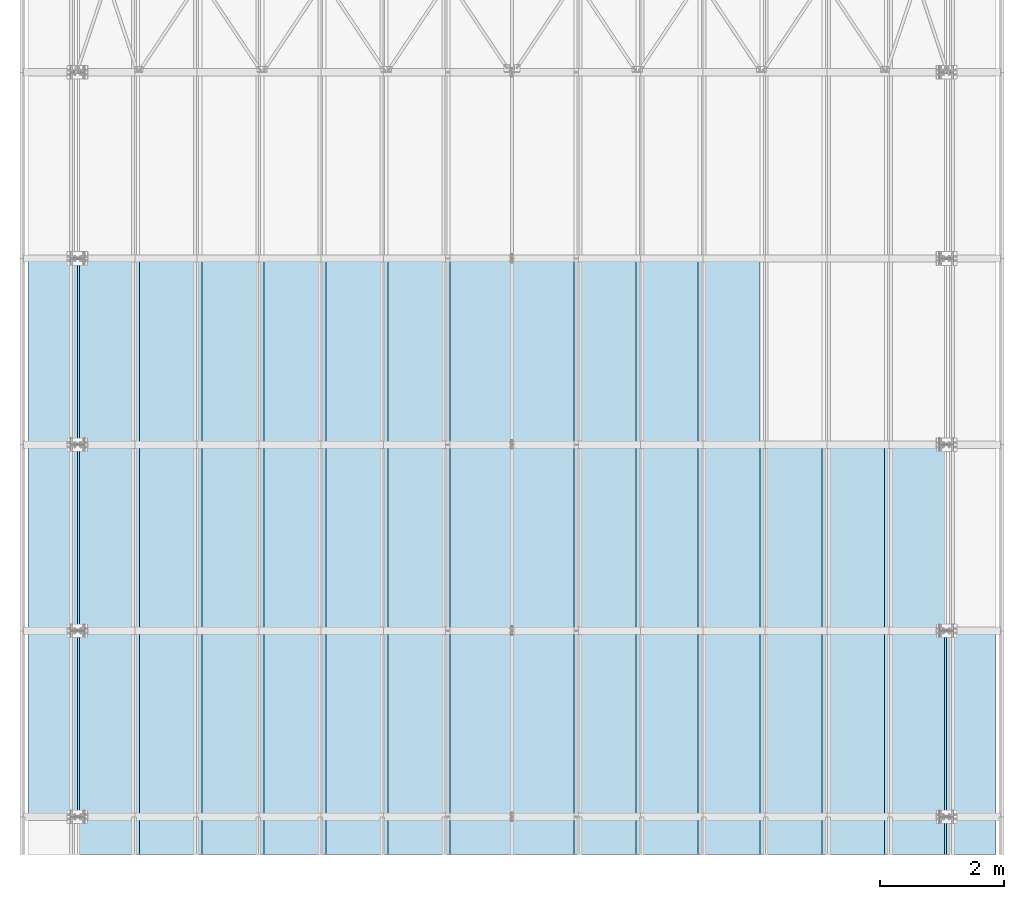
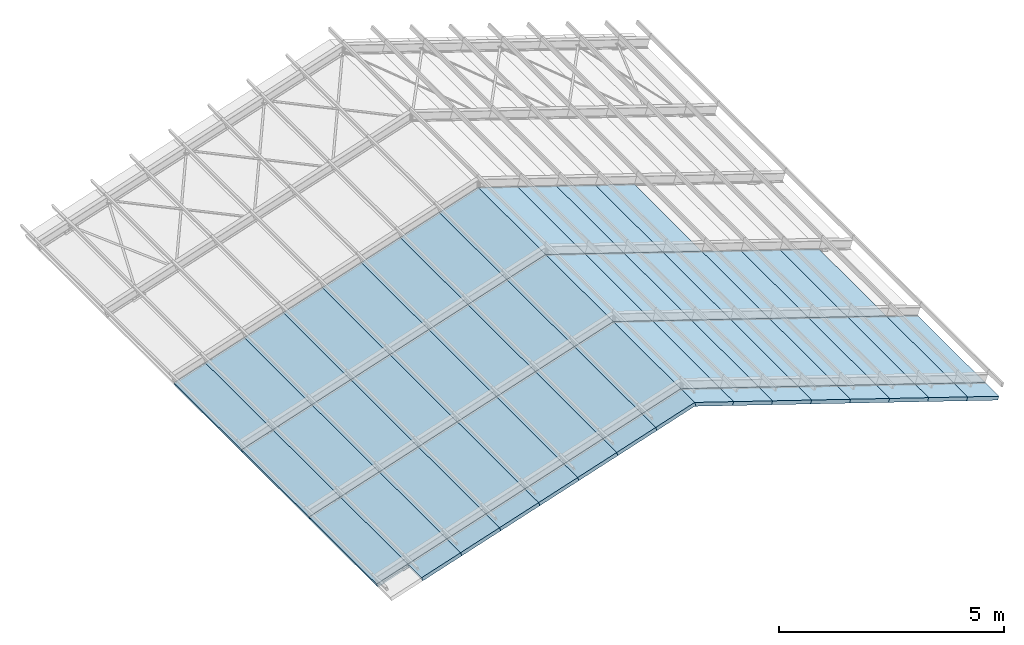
# One storey, part 3 of 53: 58 slabs.
"""IFC4 building model written with IfcOpenShell, lengths in metres."""

from ifc_helpers import new_model, si_unit, frame, origin_with_axes, place, context, project, spatial, polyline, outline, extrude, material, type_object, element, save


model = new_model("IFC4")

# Units and contexts
model_context = context("Model", 3, precision=1e-05, world=origin_with_axes())
ifc_project = project(units=[si_unit("LENGTHUNIT", "METRE"), si_unit("AREAUNIT", "SQUARE_METRE"), si_unit("VOLUMEUNIT", "CUBIC_METRE"), si_unit("MASSUNIT", "GRAM", prefix="KILO"), si_unit("TIMEUNIT", "SECOND"), si_unit("PLANEANGLEUNIT", "RADIAN"), si_unit("SOLIDANGLEUNIT", "STERADIAN"), si_unit("THERMODYNAMICTEMPERATUREUNIT", "DEGREE_CELSIUS")], contexts=[model_context])

# Site, building, storey
placement_1 = place(None, origin_with_axes())
site = spatial("IfcSite", under=ifc_project, at=placement_1, Name="Italia", CompositionType="ELEMENT")
building = spatial("IfcBuilding", under=site, at=placement_1, Name="Capannone", CompositionType="ELEMENT")
storey_placement = place(None, frame((0.0, 0.0, 5.550000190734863), z_axis=(0.0, 0.0, 1.0), x_axis=(1.0, 0.0, 0.0)))
storey = spatial("IfcBuildingStorey", under=building, at=storey_placement, Name="Storey 1", CompositionType="ELEMENT", Elevation=5.550000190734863)

# Slabs
ifc_material_1 = material(Name="Concrete", Category="Concrete")
slab_type_1 = type_object("IfcSlabType", Name="1 Copertura", PredefinedType="FLOOR", material=ifc_material_1)
placement_2 = place(placement_1, origin_with_axes())
slab_1_placement = place(placement_2, origin_with_axes())
element("IfcSlab", 1, at=slab_1_placement, inside=storey, type_object=slab_type_1, Name="100", context=model_context, shape_type="SweptSolid", body=[
    extrude(outline(polyline([(0.0, 0.0), (0.61, 9.53674e-07), (0.609998, 1.0526), (-1.90735e-06, 1.0526), (0.0, 0.0)])), frame((2.0, -0.61, 6.20714), z_axis=(0.312152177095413, 5.96046959e-07, -0.950032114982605), x_axis=(-1.909475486e-06, 1.0, 0.0)), (0.0, 0.0, 1.0), 0.0999999),
])
ifc_material_2 = material(Name="Concrete", Category="Concrete")
slab_type_2 = type_object("IfcSlabType", Name="1 Copertura", PredefinedType="FLOOR", material=ifc_material_2)
slab_2_placement = place(placement_2, origin_with_axes())
element("IfcSlab", 2, at=slab_2_placement, inside=storey, type_object=slab_type_2, Name="101", context=model_context, shape_type="SweptSolid", body=[
    extrude(outline(polyline([(0.0, 0.0), (0.61, 0.0), (0.61, 1.0526), (0.0, 1.0526), (0.0, 0.0)])), frame((3.0, -0.61, 6.53571), z_axis=(0.312154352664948, 0.0, -0.950031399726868), x_axis=(0.0, 1.0, 0.0)), (0.0, 0.0, 1.0), 0.1),
])
ifc_material_3 = material(Name="Concrete", Category="Concrete")
slab_type_3 = type_object("IfcSlabType", Name="1 Copertura", PredefinedType="FLOOR", material=ifc_material_3)
slab_3_placement = place(placement_2, origin_with_axes())
element("IfcSlab", 3, at=slab_3_placement, inside=storey, type_object=slab_type_3, Name="102", context=model_context, shape_type="SweptSolid", body=[
    extrude(outline(polyline([(0.0, 0.0), (0.61, 0.0), (0.61, 1.0526), (0.0, 1.0526), (0.0, 0.0)])), frame((4.0, -0.61, 6.86429), z_axis=(0.312152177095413, 0.0, -0.950032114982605), x_axis=(0.0, 1.0, 0.0)), (0.0, 0.0, 1.0), 0.0999999),
])
ifc_material_4 = material(Name="Concrete", Category="Concrete")
slab_type_4 = type_object("IfcSlabType", Name="1 Copertura", PredefinedType="FLOOR", material=ifc_material_4)
slab_4_placement = place(placement_2, origin_with_axes())
element("IfcSlab", 4, at=slab_4_placement, inside=storey, type_object=slab_type_4, Name="103", context=model_context, shape_type="SweptSolid", body=[
    extrude(outline(polyline([(0.0, 0.0), (0.61, 0.0), (0.61, 1.0526), (0.0, 1.0526), (0.0, 0.0)])), frame((5.0, -0.61, 7.19286), z_axis=(0.312152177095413, 0.0, -0.950032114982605), x_axis=(0.0, 1.0, 0.0)), (0.0, 0.0, 1.0), 0.0999999),
])
ifc_material_5 = material(Name="Concrete", Category="Concrete")
slab_type_5 = type_object("IfcSlabType", Name="1 Copertura", PredefinedType="FLOOR", material=ifc_material_5)
slab_5_placement = place(placement_2, origin_with_axes())
element("IfcSlab", 5, at=slab_5_placement, inside=storey, type_object=slab_type_5, Name="104", context=model_context, shape_type="SweptSolid", body=[
    extrude(outline(polyline([(0.0, 0.0), (-3.0, 0.0), (-3.0, -1.0526), (0.0, -1.0526), (0.0, 0.0)])), frame((13.0, 0.0, 5.87857), z_axis=(-0.312156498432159, 0.0, -0.950030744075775), x_axis=(0.0, -1.0, 0.0)), (0.0, 0.0, 1.0), 0.1),
])
ifc_material_6 = material(Name="Concrete", Category="Concrete")
slab_type_6 = type_object("IfcSlabType", Name="1 Copertura", PredefinedType="FLOOR", material=ifc_material_6)
slab_6_placement = place(placement_2, origin_with_axes())
element("IfcSlab", 6, at=slab_6_placement, inside=storey, type_object=slab_type_6, Name="105", context=model_context, shape_type="SweptSolid", body=[
    extrude(outline(polyline([(0.0, 0.0), (-0.61, 0.0), (-0.61, 1.0526), (0.0, 1.0526), (0.0, 0.0)])), frame((12.0, -0.61, 6.20714), z_axis=(-0.312156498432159, 0.0, -0.950030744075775), x_axis=(0.0, -1.0, 0.0)), (0.0, 0.0, 1.0), 0.1),
])
ifc_material_7 = material(Name="Concrete", Category="Concrete")
slab_type_7 = type_object("IfcSlabType", Name="1 Copertura", PredefinedType="FLOOR", material=ifc_material_7)
slab_7_placement = place(placement_2, origin_with_axes())
element("IfcSlab", 7, at=slab_7_placement, inside=storey, type_object=slab_type_7, Name="106", context=model_context, shape_type="SweptSolid", body=[
    extrude(outline(polyline([(0.0, 0.0), (-0.61, 0.0), (-0.61, 1.0526), (0.0, 1.0526), (0.0, 0.0)])), frame((13.0, -0.61, 5.87857), z_axis=(-0.312156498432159, 0.0, -0.950030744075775), x_axis=(0.0, -1.0, 0.0)), (0.0, 0.0, 1.0), 0.1),
])
ifc_material_8 = material(Name="Concrete", Category="Concrete")
slab_type_8 = type_object("IfcSlabType", Name="1 Copertura", PredefinedType="FLOOR", material=ifc_material_8)
slab_8_placement = place(placement_2, origin_with_axes())
element("IfcSlab", 8, at=slab_8_placement, inside=storey, type_object=slab_type_8, Name="107", context=model_context, shape_type="SweptSolid", body=[
    extrude(outline(polyline([(0.0, 0.0), (-0.61, 0.0), (-0.61, 1.0526), (0.0, 1.0526), (0.0, 0.0)])), frame((14.0, -0.61, 5.55), z_axis=(-0.312156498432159, 0.0, -0.950030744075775), x_axis=(0.0, -1.0, 0.0)), (0.0, 0.0, 1.0), 0.1),
])
ifc_material_9 = material(Name="Concrete", Category="Concrete")
slab_type_9 = type_object("IfcSlabType", Name="1 Copertura", PredefinedType="FLOOR", material=ifc_material_9)
slab_9_placement = place(placement_2, origin_with_axes())
element("IfcSlab", 9, at=slab_9_placement, inside=storey, type_object=slab_type_9, Name="108", context=model_context, shape_type="SweptSolid", body=[
    extrude(outline(polyline([(0.0, 0.0), (-3.0, 0.0), (-3.0, -1.0526), (0.0, -1.0526), (0.0, 0.0)])), frame((12.0, 0.0, 6.20714), z_axis=(-0.312156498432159, 0.0, -0.950030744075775), x_axis=(0.0, -1.0, 0.0)), (0.0, 0.0, 1.0), 0.1),
])
ifc_material_10 = material(Name="Concrete", Category="Concrete")
slab_type_10 = type_object("IfcSlabType", Name="1 Copertura", PredefinedType="FLOOR", material=ifc_material_10)
slab_10_placement = place(placement_2, origin_with_axes())
element("IfcSlab", 10, at=slab_10_placement, inside=storey, type_object=slab_type_10, Name="109", context=model_context, shape_type="SweptSolid", body=[
    extrude(outline(polyline([(0.0, 0.0), (-3.0, 0.0), (-3.0, -1.0526), (0.0, -1.0526), (0.0, 0.0)])), frame((11.0, 0.0, 6.53571), z_axis=(-0.312156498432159, 0.0, -0.950030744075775), x_axis=(0.0, -1.0, 0.0)), (0.0, 0.0, 1.0), 0.1),
])
ifc_material_11 = material(Name="Concrete", Category="Concrete")
slab_type_11 = type_object("IfcSlabType", Name="1 Copertura", PredefinedType="FLOOR", material=ifc_material_11)
slab_11_placement = place(placement_2, origin_with_axes())
element("IfcSlab", 11, at=slab_11_placement, inside=storey, type_object=slab_type_11, Name="110", context=model_context, shape_type="SweptSolid", body=[
    extrude(outline(polyline([(0.0, 0.0), (-0.61, 0.0), (-0.61, 1.0526), (0.0, 1.0526), (0.0, 0.0)])), frame((11.0, -0.61, 6.53571), z_axis=(-0.312156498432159, 0.0, -0.950030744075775), x_axis=(0.0, -1.0, 0.0)), (0.0, 0.0, 1.0), 0.1),
])
ifc_material_12 = material(Name="Concrete", Category="Concrete")
slab_type_12 = type_object("IfcSlabType", Name="1 Copertura", PredefinedType="FLOOR", material=ifc_material_12)
slab_12_placement = place(placement_2, origin_with_axes())
element("IfcSlab", 12, at=slab_12_placement, inside=storey, type_object=slab_type_12, Name="111", context=model_context, shape_type="SweptSolid", body=[
    extrude(outline(polyline([(0.0, 0.0), (-3.0, 0.0), (-3.0, -1.0526), (0.0, -1.0526), (0.0, 0.0)])), frame((10.0, 0.0, 6.86429), z_axis=(-0.312156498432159, 0.0, -0.950030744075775), x_axis=(0.0, -1.0, 0.0)), (0.0, 0.0, 1.0), 0.1),
])
ifc_material_13 = material(Name="Concrete", Category="Concrete")
slab_type_13 = type_object("IfcSlabType", Name="1 Copertura", PredefinedType="FLOOR", material=ifc_material_13)
slab_13_placement = place(placement_2, origin_with_axes())
element("IfcSlab", 13, at=slab_13_placement, inside=storey, type_object=slab_type_13, Name="112", context=model_context, shape_type="SweptSolid", body=[
    extrude(outline(polyline([(0.0, 0.0), (-3.0, 0.0), (-3.0, -1.0526), (0.0, -1.0526), (0.0, 0.0)])), frame((9.0, 0.0, 7.19286), z_axis=(-0.312156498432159, 0.0, -0.950030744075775), x_axis=(0.0, -1.0, 0.0)), (0.0, 0.0, 1.0), 0.1),
])
ifc_material_14 = material(Name="Concrete", Category="Concrete")
slab_type_14 = type_object("IfcSlabType", Name="1 Copertura", PredefinedType="FLOOR", material=ifc_material_14)
slab_14_placement = place(placement_2, origin_with_axes())
element("IfcSlab", 14, at=slab_14_placement, inside=storey, type_object=slab_type_14, Name="113", context=model_context, shape_type="SweptSolid", body=[
    extrude(outline(polyline([(0.0, 0.0), (-3.0, 0.0), (-3.0, -1.0526), (0.0, -1.0526), (0.0, 0.0)])), frame((8.0, 0.0, 7.52143), z_axis=(-0.312152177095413, 0.0, -0.950032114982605), x_axis=(0.0, -1.0, 0.0)), (0.0, 0.0, 1.0), 0.0999999),
])
ifc_material_15 = material(Name="Concrete", Category="Concrete")
slab_type_15 = type_object("IfcSlabType", Name="1 Copertura", PredefinedType="FLOOR", material=ifc_material_15)
slab_15_placement = place(placement_2, origin_with_axes())
element("IfcSlab", 15, at=slab_15_placement, inside=storey, type_object=slab_type_15, Name="114", context=model_context, shape_type="SweptSolid", body=[
    extrude(outline(polyline([(0.0, 0.0), (-3.0, 0.0), (-3.0, -1.0526), (0.0, -1.0526), (0.0, 0.0)])), frame((7.0, 0.0, 7.85), z_axis=(-0.312152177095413, 0.0, -0.950032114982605), x_axis=(0.0, -1.0, 0.0)), (0.0, 0.0, 1.0), 0.0999999),
])
ifc_material_16 = material(Name="Concrete", Category="Concrete")
slab_type_16 = type_object("IfcSlabType", Name="1 Copertura", PredefinedType="FLOOR", material=ifc_material_16)
slab_16_placement = place(placement_2, origin_with_axes())
element("IfcSlab", 16, at=slab_16_placement, inside=storey, type_object=slab_type_16, Name="115", context=model_context, shape_type="SweptSolid", body=[
    extrude(outline(polyline([(0.0, 0.0), (3.0, 0.0), (3.0, -1.0526), (0.0, -1.0526), (0.0, 0.0)])), frame((7.0, 0.0, 7.85), z_axis=(0.312152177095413, 0.0, -0.950032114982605), x_axis=(0.0, 1.0, 0.0)), (0.0, 0.0, 1.0), 0.0999999),
])
ifc_material_17 = material(Name="Concrete", Category="Concrete")
slab_type_17 = type_object("IfcSlabType", Name="1 Copertura", PredefinedType="FLOOR", material=ifc_material_17)
slab_17_placement = place(placement_2, origin_with_axes())
element("IfcSlab", 17, at=slab_17_placement, inside=storey, type_object=slab_type_17, Name="116", context=model_context, shape_type="SweptSolid", body=[
    extrude(outline(polyline([(0.0, 0.0), (3.0, 0.0), (3.0, -1.0526), (0.0, -1.0526), (0.0, 0.0)])), frame((6.0, 0.0, 7.52143), z_axis=(0.312152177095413, 0.0, -0.950032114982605), x_axis=(0.0, 1.0, 0.0)), (0.0, 0.0, 1.0), 0.0999999),
])
ifc_material_18 = material(Name="Concrete", Category="Concrete")
slab_type_18 = type_object("IfcSlabType", Name="1 Copertura", PredefinedType="FLOOR", material=ifc_material_18)
slab_18_placement = place(placement_2, origin_with_axes())
element("IfcSlab", 18, at=slab_18_placement, inside=storey, type_object=slab_type_18, Name="117", context=model_context, shape_type="SweptSolid", body=[
    extrude(outline(polyline([(0.0, 0.0), (3.0, 0.0), (3.0, -1.0526), (0.0, -1.0526), (0.0, 0.0)])), frame((5.0, 0.0, 7.19286), z_axis=(0.312152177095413, 0.0, -0.950032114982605), x_axis=(0.0, 1.0, 0.0)), (0.0, 0.0, 1.0), 0.0999999),
])
ifc_material_19 = material(Name="Concrete", Category="Concrete")
slab_type_19 = type_object("IfcSlabType", Name="1 Copertura", PredefinedType="FLOOR", material=ifc_material_19)
slab_19_placement = place(placement_2, origin_with_axes())
element("IfcSlab", 19, at=slab_19_placement, inside=storey, type_object=slab_type_19, Name="118", context=model_context, shape_type="SweptSolid", body=[
    extrude(outline(polyline([(0.0, 0.0), (3.0, 0.0), (3.0, -1.0526), (0.0, -1.0526), (0.0, 0.0)])), frame((4.0, 0.0, 6.86429), z_axis=(0.312152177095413, 0.0, -0.950032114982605), x_axis=(0.0, 1.0, 0.0)), (0.0, 0.0, 1.0), 0.0999999),
])
ifc_material_20 = material(Name="Concrete", Category="Concrete")
slab_type_20 = type_object("IfcSlabType", Name="1 Copertura", PredefinedType="FLOOR", material=ifc_material_20)
slab_20_placement = place(placement_2, origin_with_axes())
element("IfcSlab", 20, at=slab_20_placement, inside=storey, type_object=slab_type_20, Name="119", context=model_context, shape_type="SweptSolid", body=[
    extrude(outline(polyline([(0.0, 0.0), (3.0, 0.0), (3.0, -1.0526), (0.0, -1.0526), (0.0, 0.0)])), frame((3.0, 0.0, 6.53571), z_axis=(0.312152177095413, 0.0, -0.950032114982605), x_axis=(0.0, 1.0, 0.0)), (0.0, 0.0, 1.0), 0.0999999),
])
ifc_material_21 = material(Name="Concrete", Category="Concrete")
slab_type_21 = type_object("IfcSlabType", Name="1 Copertura", PredefinedType="FLOOR", material=ifc_material_21)
slab_21_placement = place(placement_2, origin_with_axes())
element("IfcSlab", 21, at=slab_21_placement, inside=storey, type_object=slab_type_21, Name="120", context=model_context, shape_type="SweptSolid", body=[
    extrude(outline(polyline([(0.0, 0.0), (3.0, 0.0), (3.0, -1.0526), (0.0, -1.0526), (0.0, 0.0)])), frame((2.0, 0.0, 6.20714), z_axis=(0.312154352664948, 0.0, -0.950031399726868), x_axis=(0.0, 1.0, 0.0)), (0.0, 0.0, 1.0), 0.1),
])
ifc_material_22 = material(Name="Concrete", Category="Concrete")
slab_type_22 = type_object("IfcSlabType", Name="1 Copertura", PredefinedType="FLOOR", material=ifc_material_22)
slab_22_placement = place(placement_2, origin_with_axes())
element("IfcSlab", 22, at=slab_22_placement, inside=storey, type_object=slab_type_22, Name="121", context=model_context, shape_type="SweptSolid", body=[
    extrude(outline(polyline([(0.0, 0.0), (0.61, 1.43051e-06), (0.609998, 1.0526), (-1.90735e-06, 1.0526), (0.0, 0.0)])), frame((1.0, -0.61, 5.87857), z_axis=(0.312153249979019, 5.96046732e-07, -0.950031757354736), x_axis=(-1.90946821e-06, 1.0, 0.0)), (0.0, 0.0, 1.0), 0.0999999),
])
ifc_material_23 = material(Name="Concrete", Category="Concrete")
slab_type_23 = type_object("IfcSlabType", Name="1 Copertura", PredefinedType="FLOOR", material=ifc_material_23)
slab_23_placement = place(placement_2, origin_with_axes())
element("IfcSlab", 23, at=slab_23_placement, inside=storey, type_object=slab_type_23, Name="122", context=model_context, shape_type="SweptSolid", body=[
    extrude(outline(polyline([(0.0, 0.0), (3.0, 0.0), (3.0, -1.0526), (0.0, -1.0526), (0.0, 0.0)])), frame((1.0, 0.0, 5.87857), z_axis=(0.312153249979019, 0.0, -0.950031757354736), x_axis=(0.0, 1.0, 0.0)), (0.0, 0.0, 1.0), 0.0999999),
])
ifc_material_24 = material(Name="Concrete", Category="Concrete")
slab_type_24 = type_object("IfcSlabType", Name="1 Copertura", PredefinedType="FLOOR", material=ifc_material_24)
slab_24_placement = place(placement_2, origin_with_axes())
element("IfcSlab", 24, at=slab_24_placement, inside=storey, type_object=slab_type_24, Name="123", context=model_context, shape_type="SweptSolid", body=[
    extrude(outline(polyline([(0.0, 0.0), (-0.61, 0.0), (-0.61, 0.842076), (0.0, 0.842076), (0.0, 0.0)])), frame((14.8, -0.61, 5.28714), z_axis=(-0.312156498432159, 0.0, -0.950030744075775), x_axis=(0.0, -1.0, 0.0)), (0.0, 0.0, 1.0), 0.1),
])
ifc_material_25 = material(Name="Concrete", Category="Concrete")
slab_type_25 = type_object("IfcSlabType", Name="1 Copertura", PredefinedType="FLOOR", material=ifc_material_25)
slab_25_placement = place(placement_2, origin_with_axes())
element("IfcSlab", 25, at=slab_25_placement, inside=storey, type_object=slab_type_25, Name="124", context=model_context, shape_type="SweptSolid", body=[
    extrude(outline(polyline([(0.0, 0.0), (-0.61, 0.0), (-0.61, 1.0526), (0.0, 1.0526), (0.0, 0.0)])), frame((8.0, -0.61, 7.52143), z_axis=(-0.312152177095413, 0.0, -0.950032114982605), x_axis=(0.0, -1.0, 0.0)), (0.0, 0.0, 1.0), 0.0999999),
])
ifc_material_26 = material(Name="Concrete", Category="Concrete")
slab_type_26 = type_object("IfcSlabType", Name="1 Copertura", PredefinedType="FLOOR", material=ifc_material_26)
slab_26_placement = place(placement_2, origin_with_axes())
element("IfcSlab", 26, at=slab_26_placement, inside=storey, type_object=slab_type_26, Name="125", context=model_context, shape_type="SweptSolid", body=[
    extrude(outline(polyline([(0.0, 0.0), (-0.61, 0.0), (-0.61, 1.0526), (0.0, 1.0526), (0.0, 0.0)])), frame((9.0, -0.61, 7.19286), z_axis=(-0.312156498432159, 0.0, -0.950030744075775), x_axis=(0.0, -1.0, 0.0)), (0.0, 0.0, 1.0), 0.1),
])
ifc_material_27 = material(Name="Concrete", Category="Concrete")
slab_type_27 = type_object("IfcSlabType", Name="1 Copertura", PredefinedType="FLOOR", material=ifc_material_27)
slab_27_placement = place(placement_2, origin_with_axes())
element("IfcSlab", 27, at=slab_27_placement, inside=storey, type_object=slab_type_27, Name="126", context=model_context, shape_type="SweptSolid", body=[
    extrude(outline(polyline([(0.0, 0.0), (-0.61, 0.0), (-0.61, 1.0526), (0.0, 1.0526), (0.0, 0.0)])), frame((10.0, -0.61, 6.86429), z_axis=(-0.312156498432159, 0.0, -0.950030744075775), x_axis=(0.0, -1.0, 0.0)), (0.0, 0.0, 1.0), 0.1),
])
ifc_material_28 = material(Name="Concrete", Category="Concrete")
slab_type_28 = type_object("IfcSlabType", Name="1 Copertura", PredefinedType="FLOOR", material=ifc_material_28)
slab_28_placement = place(placement_2, origin_with_axes())
element("IfcSlab", 28, at=slab_28_placement, inside=storey, type_object=slab_type_28, Name="127", context=model_context, shape_type="SweptSolid", body=[
    extrude(outline(polyline([(0.0, 0.0), (-3.0, 0.0), (-3.0, -1.0526), (0.0, -1.0526), (0.0, 0.0)])), frame((13.0, 3.0, 5.87857), z_axis=(-0.312156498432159, 0.0, -0.950030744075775), x_axis=(0.0, -1.0, 0.0)), (0.0, 0.0, 1.0), 0.1),
])
ifc_material_29 = material(Name="Concrete", Category="Concrete")
slab_type_29 = type_object("IfcSlabType", Name="1 Copertura", PredefinedType="FLOOR", material=ifc_material_29)
slab_29_placement = place(placement_2, origin_with_axes())
element("IfcSlab", 29, at=slab_29_placement, inside=storey, type_object=slab_type_29, Name="128", context=model_context, shape_type="SweptSolid", body=[
    extrude(outline(polyline([(0.0, 0.0), (0.61, 0.0), (0.61, 1.0526), (0.0, 1.0526), (0.0, 0.0)])), frame((6.0, -0.61, 7.52143), z_axis=(0.312152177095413, 0.0, -0.950032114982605), x_axis=(0.0, 1.0, 0.0)), (0.0, 0.0, 1.0), 0.0999999),
])
ifc_material_30 = material(Name="Concrete", Category="Concrete")
slab_type_30 = type_object("IfcSlabType", Name="1 Copertura", PredefinedType="FLOOR", material=ifc_material_30)
slab_30_placement = place(placement_2, origin_with_axes())
element("IfcSlab", 30, at=slab_30_placement, inside=storey, type_object=slab_type_30, Name="129", context=model_context, shape_type="SweptSolid", body=[
    extrude(outline(polyline([(0.0, 0.0), (-3.0, 0.0), (-3.0, -1.0526), (0.0, -1.0526), (0.0, 0.0)])), frame((12.0, 3.0, 6.20714), z_axis=(-0.312156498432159, 0.0, -0.950030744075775), x_axis=(0.0, -1.0, 0.0)), (0.0, 0.0, 1.0), 0.1),
])
ifc_material_31 = material(Name="Concrete", Category="Concrete")
slab_type_31 = type_object("IfcSlabType", Name="1 Copertura", PredefinedType="FLOOR", material=ifc_material_31)
slab_31_placement = place(placement_2, origin_with_axes())
element("IfcSlab", 31, at=slab_31_placement, inside=storey, type_object=slab_type_31, Name="130", context=model_context, shape_type="SweptSolid", body=[
    extrude(outline(polyline([(0.0, 0.0), (-3.0, 0.0), (-3.0, -1.0526), (0.0, -1.0526), (0.0, 0.0)])), frame((11.0, 3.0, 6.53571), z_axis=(-0.312156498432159, 0.0, -0.950030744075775), x_axis=(0.0, -1.0, 0.0)), (0.0, 0.0, 1.0), 0.1),
])
ifc_material_32 = material(Name="Concrete", Category="Concrete")
slab_type_32 = type_object("IfcSlabType", Name="1 Copertura", PredefinedType="FLOOR", material=ifc_material_32)
slab_32_placement = place(placement_2, origin_with_axes())
element("IfcSlab", 32, at=slab_32_placement, inside=storey, type_object=slab_type_32, Name="131", context=model_context, shape_type="SweptSolid", body=[
    extrude(outline(polyline([(0.0, 0.0), (-3.0, 0.0), (-3.0, -1.0526), (0.0, -1.0526), (0.0, 0.0)])), frame((10.0, 3.0, 6.86429), z_axis=(-0.312156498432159, 0.0, -0.950030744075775), x_axis=(0.0, -1.0, 0.0)), (0.0, 0.0, 1.0), 0.1),
])
ifc_material_33 = material(Name="Concrete", Category="Concrete")
slab_type_33 = type_object("IfcSlabType", Name="1 Copertura", PredefinedType="FLOOR", material=ifc_material_33)
slab_33_placement = place(placement_2, origin_with_axes())
element("IfcSlab", 33, at=slab_33_placement, inside=storey, type_object=slab_type_33, Name="132", context=model_context, shape_type="SweptSolid", body=[
    extrude(outline(polyline([(0.0, 0.0), (-3.0, 0.0), (-3.0, -1.0526), (0.0, -1.0526), (0.0, 0.0)])), frame((9.0, 3.0, 7.19286), z_axis=(-0.312156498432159, 0.0, -0.950030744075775), x_axis=(0.0, -1.0, 0.0)), (0.0, 0.0, 1.0), 0.1),
])
ifc_material_34 = material(Name="Concrete", Category="Concrete")
slab_type_34 = type_object("IfcSlabType", Name="1 Copertura", PredefinedType="FLOOR", material=ifc_material_34)
slab_34_placement = place(placement_2, origin_with_axes())
element("IfcSlab", 34, at=slab_34_placement, inside=storey, type_object=slab_type_34, Name="133", context=model_context, shape_type="SweptSolid", body=[
    extrude(outline(polyline([(0.0, 0.0), (0.61, 1.07288e-06), (0.609998, 1.0526), (-1.90735e-06, 1.0526), (0.0, 0.0)])), frame((0.0, -0.61, 5.55), z_axis=(0.312153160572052, 5.96046732e-07, -0.950031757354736), x_axis=(-1.909468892e-06, 1.0, 0.0)), (0.0, 0.0, 1.0), 0.0999999),
])
ifc_material_35 = material(Name="Concrete", Category="Concrete")
slab_type_35 = type_object("IfcSlabType", Name="1 Copertura", PredefinedType="FLOOR", material=ifc_material_35)
slab_35_placement = place(placement_2, origin_with_axes())
element("IfcSlab", 35, at=slab_35_placement, inside=storey, type_object=slab_type_35, Name="135", context=model_context, shape_type="SweptSolid", body=[
    extrude(outline(polyline([(0.0, 0.0), (-3.0, 0.0), (-3.0, -1.0526), (0.0, -1.0526), (0.0, 0.0)])), frame((8.0, 3.0, 7.52143), z_axis=(-0.312152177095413, 0.0, -0.950032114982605), x_axis=(0.0, -1.0, 0.0)), (0.0, 0.0, 1.0), 0.0999999),
])
ifc_material_36 = material(Name="Concrete", Category="Concrete")
slab_type_36 = type_object("IfcSlabType", Name="1 Copertura", PredefinedType="FLOOR", material=ifc_material_36)
slab_36_placement = place(placement_2, origin_with_axes())
element("IfcSlab", 36, at=slab_36_placement, inside=storey, type_object=slab_type_36, Name="136", context=model_context, shape_type="SweptSolid", body=[
    extrude(outline(polyline([(0.0, 0.0), (-3.0, 0.0), (-3.0, -1.0526), (0.0, -1.0526), (0.0, 0.0)])), frame((7.0, 3.0, 7.85), z_axis=(-0.312152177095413, 0.0, -0.950032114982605), x_axis=(0.0, -1.0, 0.0)), (0.0, 0.0, 1.0), 0.0999999),
])
ifc_material_37 = material(Name="Concrete", Category="Concrete")
slab_type_37 = type_object("IfcSlabType", Name="1 Copertura", PredefinedType="FLOOR", material=ifc_material_37)
slab_37_placement = place(placement_2, origin_with_axes())
element("IfcSlab", 37, at=slab_37_placement, inside=storey, type_object=slab_type_37, Name="137", context=model_context, shape_type="SweptSolid", body=[
    extrude(outline(polyline([(0.0, 0.0), (3.0, 0.0), (3.0, -1.0526), (0.0, -1.0526), (0.0, 0.0)])), frame((7.0, 3.0, 7.85), z_axis=(0.312152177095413, 0.0, -0.950032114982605), x_axis=(0.0, 1.0, 0.0)), (0.0, 0.0, 1.0), 0.0999999),
])
ifc_material_38 = material(Name="Concrete", Category="Concrete")
slab_type_38 = type_object("IfcSlabType", Name="1 Copertura", PredefinedType="FLOOR", material=ifc_material_38)
slab_38_placement = place(placement_2, origin_with_axes())
element("IfcSlab", 38, at=slab_38_placement, inside=storey, type_object=slab_type_38, Name="138", context=model_context, shape_type="SweptSolid", body=[
    extrude(outline(polyline([(0.0, 0.0), (3.0, 0.0), (3.0, -1.0526), (0.0, -1.0526), (0.0, 0.0)])), frame((6.0, 3.0, 7.52143), z_axis=(0.312152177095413, 0.0, -0.950032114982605), x_axis=(0.0, 1.0, 0.0)), (0.0, 0.0, 1.0), 0.0999999),
])
ifc_material_39 = material(Name="Concrete", Category="Concrete")
slab_type_39 = type_object("IfcSlabType", Name="1 Copertura", PredefinedType="FLOOR", material=ifc_material_39)
slab_39_placement = place(placement_2, origin_with_axes())
element("IfcSlab", 39, at=slab_39_placement, inside=storey, type_object=slab_type_39, Name="139", context=model_context, shape_type="SweptSolid", body=[
    extrude(outline(polyline([(0.0, 0.0), (3.0, 0.0), (3.0, -1.0526), (0.0, -1.0526), (0.0, 0.0)])), frame((5.0, 3.0, 7.19286), z_axis=(0.312152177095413, 0.0, -0.950032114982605), x_axis=(0.0, 1.0, 0.0)), (0.0, 0.0, 1.0), 0.0999999),
])
ifc_material_40 = material(Name="Concrete", Category="Concrete")
slab_type_40 = type_object("IfcSlabType", Name="1 Copertura", PredefinedType="FLOOR", material=ifc_material_40)
slab_40_placement = place(placement_2, origin_with_axes())
element("IfcSlab", 40, at=slab_40_placement, inside=storey, type_object=slab_type_40, Name="140", context=model_context, shape_type="SweptSolid", body=[
    extrude(outline(polyline([(0.0, 0.0), (3.0, 0.0), (3.0, -1.0526), (0.0, -1.0526), (0.0, 0.0)])), frame((4.0, 3.0, 6.86429), z_axis=(0.312152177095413, 0.0, -0.950032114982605), x_axis=(0.0, 1.0, 0.0)), (0.0, 0.0, 1.0), 0.0999999),
])
ifc_material_41 = material(Name="Concrete", Category="Concrete")
slab_type_41 = type_object("IfcSlabType", Name="1 Copertura", PredefinedType="FLOOR", material=ifc_material_41)
slab_41_placement = place(placement_2, origin_with_axes())
element("IfcSlab", 41, at=slab_41_placement, inside=storey, type_object=slab_type_41, Name="146", context=model_context, shape_type="SweptSolid", body=[
    extrude(outline(polyline([(0.0, 0.0), (3.0, 0.0), (3.0, -1.0526), (0.0, -1.0526), (0.0, 0.0)])), frame((3.0, 3.0, 6.53571), z_axis=(0.312152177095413, 0.0, -0.950032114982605), x_axis=(0.0, 1.0, 0.0)), (0.0, 0.0, 1.0), 0.0999999),
])
ifc_material_42 = material(Name="Concrete", Category="Concrete")
slab_type_42 = type_object("IfcSlabType", Name="1 Copertura", PredefinedType="FLOOR", material=ifc_material_42)
slab_42_placement = place(placement_2, origin_with_axes())
element("IfcSlab", 42, at=slab_42_placement, inside=storey, type_object=slab_type_42, Name="151", context=model_context, shape_type="SweptSolid", body=[
    extrude(outline(polyline([(0.0, 0.0), (3.0, -2.38419e-07), (3.0, -1.0526), (0.0, -1.0526), (0.0, 0.0)])), frame((2.0, 3.0, 6.20714), z_axis=(0.312154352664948, 0.0, -0.950031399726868), x_axis=(0.0, 1.0, 0.0)), (0.0, 0.0, 1.0), 0.1),
])
ifc_material_43 = material(Name="Concrete", Category="Concrete")
slab_type_43 = type_object("IfcSlabType", Name="1 Copertura", PredefinedType="FLOOR", material=ifc_material_43)
slab_43_placement = place(placement_2, origin_with_axes())
element("IfcSlab", 43, at=slab_43_placement, inside=storey, type_object=slab_type_43, Name="153", context=model_context, shape_type="SweptSolid", body=[
    extrude(outline(polyline([(0.0, 0.0), (3.0, 0.0), (3.0, -1.0526), (0.0, -1.0526), (0.0, 0.0)])), frame((1.0, 3.0, 5.87857), z_axis=(0.312153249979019, 0.0, -0.950031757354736), x_axis=(0.0, 1.0, 0.0)), (0.0, 0.0, 1.0), 0.0999999),
])
ifc_material_44 = material(Name="Concrete", Category="Concrete")
slab_type_44 = type_object("IfcSlabType", Name="1 Copertura", PredefinedType="FLOOR", material=ifc_material_44)
slab_44_placement = place(placement_2, origin_with_axes())
element("IfcSlab", 44, at=slab_44_placement, inside=storey, type_object=slab_type_44, Name="159", context=model_context, shape_type="SweptSolid", body=[
    extrude(outline(polyline([(0.0, 0.0), (-3.0, 0.0), (-3.0, -1.0526), (0.0, -1.0526), (0.0, 0.0)])), frame((10.0, 6.0, 6.86429), z_axis=(-0.312156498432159, 0.0, -0.950030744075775), x_axis=(0.0, -1.0, 0.0)), (0.0, 0.0, 1.0), 0.1),
])
ifc_material_45 = material(Name="Concrete", Category="Concrete")
slab_type_45 = type_object("IfcSlabType", Name="1 Copertura", PredefinedType="FLOOR", material=ifc_material_45)
slab_45_placement = place(placement_2, origin_with_axes())
element("IfcSlab", 45, at=slab_45_placement, inside=storey, type_object=slab_type_45, Name="160", context=model_context, shape_type="SweptSolid", body=[
    extrude(outline(polyline([(0.0, 0.0), (-3.0, 0.0), (-3.0, -1.0526), (0.0, -1.0526), (0.0, 0.0)])), frame((9.0, 6.0, 7.19286), z_axis=(-0.312156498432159, 0.0, -0.950030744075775), x_axis=(0.0, -1.0, 0.0)), (0.0, 0.0, 1.0), 0.1),
])
ifc_material_46 = material(Name="Concrete", Category="Concrete")
slab_type_46 = type_object("IfcSlabType", Name="1 Copertura", PredefinedType="FLOOR", material=ifc_material_46)
slab_46_placement = place(placement_2, origin_with_axes())
element("IfcSlab", 46, at=slab_46_placement, inside=storey, type_object=slab_type_46, Name="161", context=model_context, shape_type="SweptSolid", body=[
    extrude(outline(polyline([(0.0, 0.0), (-3.0, 0.0), (-3.0, -1.0526), (0.0, -1.0526), (0.0, 0.0)])), frame((8.0, 6.0, 7.52143), z_axis=(-0.312152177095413, 0.0, -0.950032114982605), x_axis=(0.0, -1.0, 0.0)), (0.0, 0.0, 1.0), 0.0999999),
])
ifc_material_47 = material(Name="Concrete", Category="Concrete")
slab_type_47 = type_object("IfcSlabType", Name="1 Copertura", PredefinedType="FLOOR", material=ifc_material_47)
slab_47_placement = place(placement_2, origin_with_axes())
element("IfcSlab", 47, at=slab_47_placement, inside=storey, type_object=slab_type_47, Name="162", context=model_context, shape_type="SweptSolid", body=[
    extrude(outline(polyline([(0.0, 0.0), (3.0, 0.0), (3.0, -1.0526), (0.0, -1.0526), (0.0, 0.0)])), frame((7.0, 6.0, 7.85), z_axis=(0.312152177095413, 0.0, -0.950032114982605), x_axis=(0.0, 1.0, 0.0)), (0.0, 0.0, 1.0), 0.0999999),
])
ifc_material_48 = material(Name="Concrete", Category="Concrete")
slab_type_48 = type_object("IfcSlabType", Name="1 Copertura", PredefinedType="FLOOR", material=ifc_material_48)
slab_48_placement = place(placement_2, origin_with_axes())
element("IfcSlab", 48, at=slab_48_placement, inside=storey, type_object=slab_type_48, Name="163", context=model_context, shape_type="SweptSolid", body=[
    extrude(outline(polyline([(0.0, 0.0), (-3.0, 0.0), (-3.0, -1.0526), (0.0, -1.0526), (0.0, 0.0)])), frame((7.0, 6.0, 7.85), z_axis=(-0.312152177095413, 0.0, -0.950032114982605), x_axis=(0.0, -1.0, 0.0)), (0.0, 0.0, 1.0), 0.0999999),
])
ifc_material_49 = material(Name="Concrete", Category="Concrete")
slab_type_49 = type_object("IfcSlabType", Name="1 Copertura", PredefinedType="FLOOR", material=ifc_material_49)
slab_49_placement = place(placement_2, origin_with_axes())
element("IfcSlab", 49, at=slab_49_placement, inside=storey, type_object=slab_type_49, Name="164", context=model_context, shape_type="SweptSolid", body=[
    extrude(outline(polyline([(0.0, 0.0), (3.0, 0.0), (3.0, -1.0526), (0.0, -1.0526), (0.0, 0.0)])), frame((6.0, 6.0, 7.52143), z_axis=(0.312152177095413, 0.0, -0.950032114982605), x_axis=(0.0, 1.0, 0.0)), (0.0, 0.0, 1.0), 0.0999999),
])
ifc_material_50 = material(Name="Concrete", Category="Concrete")
slab_type_50 = type_object("IfcSlabType", Name="1 Copertura", PredefinedType="FLOOR", material=ifc_material_50)
slab_50_placement = place(placement_2, origin_with_axes())
element("IfcSlab", 50, at=slab_50_placement, inside=storey, type_object=slab_type_50, Name="169", context=model_context, shape_type="SweptSolid", body=[
    extrude(outline(polyline([(0.0, 0.0), (3.0, 0.0), (3.0, 0.842077), (0.0, 0.842077), (0.0, 0.0)])), frame((-0.8, 0.0, 5.28714), z_axis=(0.312153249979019, 0.0, -0.950031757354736), x_axis=(0.0, 1.0, 0.0)), (0.0, 0.0, 1.0), 0.0999999),
])
ifc_material_51 = material(Name="Concrete", Category="Concrete")
slab_type_51 = type_object("IfcSlabType", Name="1 Copertura", PredefinedType="FLOOR", material=ifc_material_51)
slab_51_placement = place(placement_2, origin_with_axes())
element("IfcSlab", 51, at=slab_51_placement, inside=storey, type_object=slab_type_51, Name="170", context=model_context, shape_type="SweptSolid", body=[
    extrude(outline(polyline([(0.0, 0.0), (3.0, 0.0), (3.0, -1.0526), (0.0, -1.0526), (0.0, 0.0)])), frame((5.0, 6.0, 7.19286), z_axis=(0.312152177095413, 0.0, -0.950032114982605), x_axis=(0.0, 1.0, 0.0)), (0.0, 0.0, 1.0), 0.0999999),
])
ifc_material_52 = material(Name="Concrete", Category="Concrete")
slab_type_52 = type_object("IfcSlabType", Name="1 Copertura", PredefinedType="FLOOR", material=ifc_material_52)
slab_52_placement = place(placement_2, origin_with_axes())
element("IfcSlab", 52, at=slab_52_placement, inside=storey, type_object=slab_type_52, Name="171", context=model_context, shape_type="SweptSolid", body=[
    extrude(outline(polyline([(0.0, 0.0), (3.0, 0.0), (3.0, 0.842077), (0.0, 0.842077), (0.0, 0.0)])), frame((-0.8, 3.0, 5.28714), z_axis=(0.312153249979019, 0.0, -0.950031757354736), x_axis=(0.0, 1.0, 0.0)), (0.0, 0.0, 1.0), 0.0999999),
])
ifc_material_53 = material(Name="Concrete", Category="Concrete")
slab_type_53 = type_object("IfcSlabType", Name="1 Copertura", PredefinedType="FLOOR", material=ifc_material_53)
slab_53_placement = place(placement_2, origin_with_axes())
element("IfcSlab", 53, at=slab_53_placement, inside=storey, type_object=slab_type_53, Name="172", context=model_context, shape_type="SweptSolid", body=[
    extrude(outline(polyline([(0.0, 0.0), (3.0, 0.0), (3.0, 0.842077), (0.0, 0.842077), (0.0, 0.0)])), frame((-0.8, 6.0, 5.28714), z_axis=(0.312153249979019, 0.0, -0.950031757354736), x_axis=(0.0, 1.0, 0.0)), (0.0, 0.0, 1.0), 0.0999999),
])
ifc_material_54 = material(Name="Concrete", Category="Concrete")
slab_type_54 = type_object("IfcSlabType", Name="1 Copertura", PredefinedType="FLOOR", material=ifc_material_54)
slab_54_placement = place(placement_2, origin_with_axes())
element("IfcSlab", 54, at=slab_54_placement, inside=storey, type_object=slab_type_54, Name="175", context=model_context, shape_type="SweptSolid", body=[
    extrude(outline(polyline([(0.0, 0.0), (3.0, 0.0), (3.0, -1.0526), (0.0, -1.0526), (0.0, 0.0)])), frame((4.0, 6.0, 6.86429), z_axis=(0.312152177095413, 0.0, -0.950032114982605), x_axis=(0.0, 1.0, 0.0)), (0.0, 0.0, 1.0), 0.0999999),
])
ifc_material_55 = material(Name="Concrete", Category="Concrete")
slab_type_55 = type_object("IfcSlabType", Name="1 Copertura", PredefinedType="FLOOR", material=ifc_material_55)
slab_55_placement = place(placement_2, origin_with_axes())
element("IfcSlab", 55, at=slab_55_placement, inside=storey, type_object=slab_type_55, Name="177", context=model_context, shape_type="SweptSolid", body=[
    extrude(outline(polyline([(0.0, 0.0), (3.0, 0.0), (3.0, -1.0526), (0.0, -1.0526), (0.0, 0.0)])), frame((3.0, 6.0, 6.53571), z_axis=(0.312154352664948, 0.0, -0.950031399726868), x_axis=(0.0, 1.0, 0.0)), (0.0, 0.0, 1.0), 0.1),
])
ifc_material_56 = material(Name="Concrete", Category="Concrete")
slab_type_56 = type_object("IfcSlabType", Name="1 Copertura", PredefinedType="FLOOR", material=ifc_material_56)
slab_56_placement = place(placement_2, origin_with_axes())
element("IfcSlab", 56, at=slab_56_placement, inside=storey, type_object=slab_type_56, Name="178", context=model_context, shape_type="SweptSolid", body=[
    extrude(outline(polyline([(0.0, 0.0), (3.0, 0.0), (3.0, -1.0526), (0.0, -1.0526), (0.0, 0.0)])), frame((2.0, 6.0, 6.20714), z_axis=(0.312154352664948, 0.0, -0.950031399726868), x_axis=(0.0, 1.0, 0.0)), (0.0, 0.0, 1.0), 0.1),
])
ifc_material_57 = material(Name="Concrete", Category="Concrete")
slab_type_57 = type_object("IfcSlabType", Name="1 Copertura", PredefinedType="FLOOR", material=ifc_material_57)
slab_57_placement = place(placement_2, origin_with_axes())
element("IfcSlab", 57, at=slab_57_placement, inside=storey, type_object=slab_type_57, Name="179", context=model_context, shape_type="SweptSolid", body=[
    extrude(outline(polyline([(0.0, 0.0), (3.0, 0.0), (3.0, -1.0526), (0.0, -1.0526), (0.0, 0.0)])), frame((1.0, 6.0, 5.87857), z_axis=(0.312153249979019, 0.0, -0.950031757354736), x_axis=(0.0, 1.0, 0.0)), (0.0, 0.0, 1.0), 0.0999999),
])
ifc_material_58 = material(Name="Concrete", Category="Concrete")
slab_type_58 = type_object("IfcSlabType", Name="1 Copertura", PredefinedType="FLOOR", material=ifc_material_58)
slab_58_placement = place(placement_2, origin_with_axes())
element("IfcSlab", 58, at=slab_58_placement, inside=storey, type_object=slab_type_58, Name="197", context=model_context, shape_type="SweptSolid", body=[
    extrude(outline(polyline([(0.0, 0.0), (-3.0, 0.0), (-3.0, 0.842076), (0.0, 0.842076), (0.0, 0.0)])), frame((14.8, 0.0, 5.28714), z_axis=(-0.312156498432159, 0.0, -0.950030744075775), x_axis=(0.0, -1.0, 0.0)), (0.0, 0.0, 1.0), 0.1),
])

save(model, "model.ifc")
